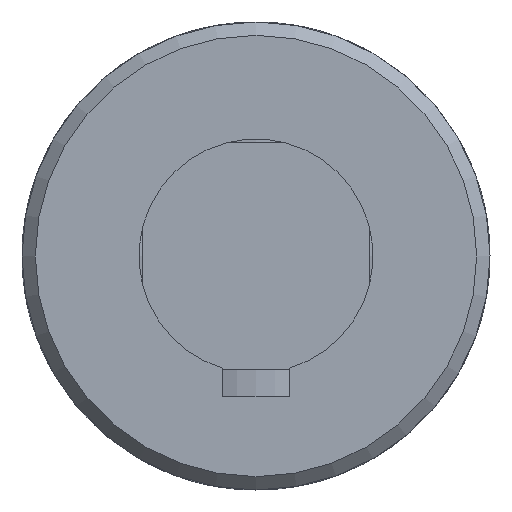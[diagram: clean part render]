
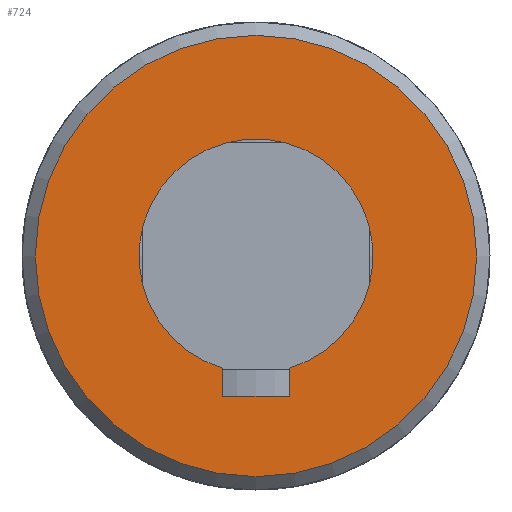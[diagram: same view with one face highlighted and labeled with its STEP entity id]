
A CAD part, front view. The second image highlights one B-rep face of the part: STEP entity #724.
In plain terms, the highlighted planar face has unit normal (0, -1, 0).
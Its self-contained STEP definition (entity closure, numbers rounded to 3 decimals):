
#83=LINE('',#1106,#116);
#88=LINE('',#1123,#121);
#89=LINE('',#1132,#122);
#116=VECTOR('',#906,4.229);
#121=VECTOR('',#917,4.229);
#122=VECTOR('',#920,10.);
#148=PLANE('',#789);
#173=FACE_BOUND('',#261,.T.);
#202=FACE_OUTER_BOUND('',#260,.T.);
#260=EDGE_LOOP('',(#579));
#261=EDGE_LOOP('',(#580,#581,#582,#583));
#302=CIRCLE('',#777,17.5);
#307=CIRCLE('',#787,33.);
#344=VERTEX_POINT('',#1095);
#345=VERTEX_POINT('',#1097);
#347=VERTEX_POINT('',#1105);
#353=VERTEX_POINT('',#1121);
#355=VERTEX_POINT('',#1138);
#421=EDGE_CURVE('',#345,#344,#302,.T.);
#424=EDGE_CURVE('',#347,#345,#83,.T.);
#432=EDGE_CURVE('',#344,#353,#88,.T.);
#434=EDGE_CURVE('',#353,#347,#89,.T.);
#437=EDGE_CURVE('',#355,#355,#307,.T.);
#579=ORIENTED_EDGE('',*,*,#437,.F.);
#580=ORIENTED_EDGE('',*,*,#432,.T.);
#581=ORIENTED_EDGE('',*,*,#434,.T.);
#582=ORIENTED_EDGE('',*,*,#424,.T.);
#583=ORIENTED_EDGE('',*,*,#421,.T.);
#724=ADVANCED_FACE('',(#202,#173),#148,.F.);
#777=AXIS2_PLACEMENT_3D('',#1098,#901,#902);
#787=AXIS2_PLACEMENT_3D('',#1139,#929,#930);
#789=AXIS2_PLACEMENT_3D('',#1371,#937,#938);
#901=DIRECTION('center_axis',(0.,1.,0.));
#902=DIRECTION('ref_axis',(0.286,0.,-0.958));
#906=DIRECTION('',(0.,0.,1.));
#917=DIRECTION('',(0.,0.,-1.));
#920=DIRECTION('',(-1.,0.,0.));
#929=DIRECTION('center_axis',(0.,1.,0.));
#930=DIRECTION('ref_axis',(1.,0.,0.));
#937=DIRECTION('center_axis',(0.,1.,0.));
#938=DIRECTION('ref_axis',(0.,0.,1.));
#1095=CARTESIAN_POINT('',(5.,-87.,-16.771));
#1097=CARTESIAN_POINT('',(-5.,-87.,-16.771));
#1098=CARTESIAN_POINT('Origin',(0.,-87.,0.));
#1105=CARTESIAN_POINT('',(-5.,-87.,-21.));
#1106=CARTESIAN_POINT('',(-5.,-87.,-10.5));
#1121=CARTESIAN_POINT('',(5.,-87.,-21.));
#1123=CARTESIAN_POINT('',(5.,-87.,-8.385));
#1132=CARTESIAN_POINT('',(2.5,-87.,-21.));
#1138=CARTESIAN_POINT('',(-33.,-87.,0.));
#1139=CARTESIAN_POINT('Origin',(0.,-87.,0.));
#1371=CARTESIAN_POINT('Origin',(0.,-87.,0.));
